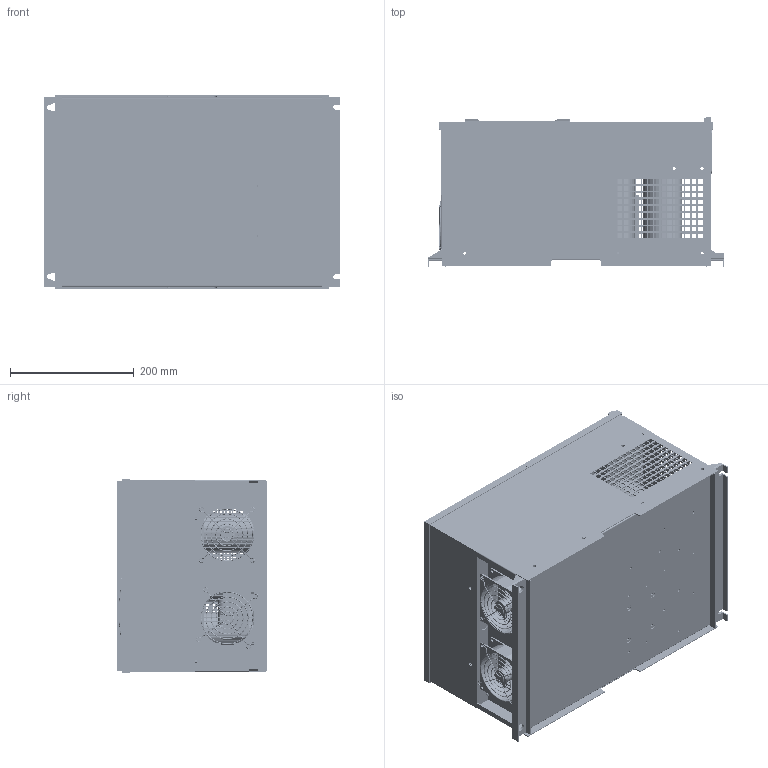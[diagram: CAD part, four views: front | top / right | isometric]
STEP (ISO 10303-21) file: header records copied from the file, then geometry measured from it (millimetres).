
FILE_DESCRIPTION((''),'2;1');
FILE_NAME('C4-INDIA_ASM','2015-09-07T',('Administrator'),(''),'PRO/ENGINEER BY PARAMETRIC TECHNOLOGY CORPORATION, 2012230','PRO/ENGINEER BY PARAMETRIC TECHNOLOGY CORPORATION, 2012230','');
FILE_SCHEMA(('CONFIG_CONTROL_DESIGN'));
Products named in the file (48): DIBAN; XIANGTI; DUANZIANZHUANGBAN; DUANZI; DUANZI121; MIANBAN; MIANBAN02; BRACKET_ASM; SRQ; PCB-00; MDS160QIAO_1; GD75CUL120C1S; FS100R12MOKUAI_1; W-TP; V-TP; U-TP; TZ-17; DUANZI-AZB; DIANRONGKIA_1; DIANRONG_1; DIANRONG-BAN; YAXIANBI-10-6; YAXIANBI-25-6; M5X12; 9225FENGJI_1; X2000-1; ZHIJIA-DK-NEW; DK-K424-026; DK_ASM; U-YINDU; V-YINDU; W-YINDU; PINGBIBAN; U-YINDU-2; V-YINDU-2; W-YINDU-2; HUOERFENGZHUANG_1; TR100-01-NP-BCM0-N1; C4-QDB-01; KZB-PCB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
Assembly tree (71 placements, depth 3):
  C4-INDIA_ASM
    DIBAN
    XIANGTI
    DUANZIANZHUANGBAN
    DUANZI  x2
    DUANZI121
    MIANBAN
    MIANBAN02
    BRACKET_ASM
    SRQ
    PCB-00
    MDS160QIAO_1
    GD75CUL120C1S
    FS100R12MOKUAI_1
    W-TP
    V-TP
    U-TP
    TZ-17  x6
    DUANZI-AZB
    DIANRONGKIA_1  x4
    DIANRONG_1  x4
    DIANRONG-BAN
    YAXIANBI-10-6
    YAXIANBI-25-6
    M5X12  x8
    9225FENGJI_1  x2
    X2000-1
    DK_ASM
      ZHIJIA-DK-NEW
      DK-K424-026
    U-YINDU
    V-YINDU
    W-YINDU
    PINGBIBAN
    U-YINDU-2
    V-YINDU-2
    W-YINDU-2
    HUOERFENGZHUANG_1  x3
    TR100-01-NP-BCM0-N1
    C4-QDB-01
    KZB-PCB
    NN-TP-1  x2
    N-TP
    NN-TP-2
    P-P-TP
    E2C3MZ1S
    X300-XIABAN
    9225ZHA  x2
Bounding box: 480 x 242.07 x 315 mm (x, y, z)
Volume: 7095690.1 mm3; surface area: 4670441 mm2
Topology: 105 solids, 105 shells, 7710 faces, 21011 edges, 13704 vertices
Faces by surface type: plane 5638, cylinder 1709, torus 162, cone 97, bspline 80, sphere 24
Entity records: 225124 total; most frequent: CARTESIAN_POINT 43935, ORIENTED_EDGE 37712, DIRECTION 35312, EDGE_CURVE 18856, VECTOR 15398, LINE 15398, VERTEX_POINT 12418, AXIS2_PLACEMENT_3D 9957
